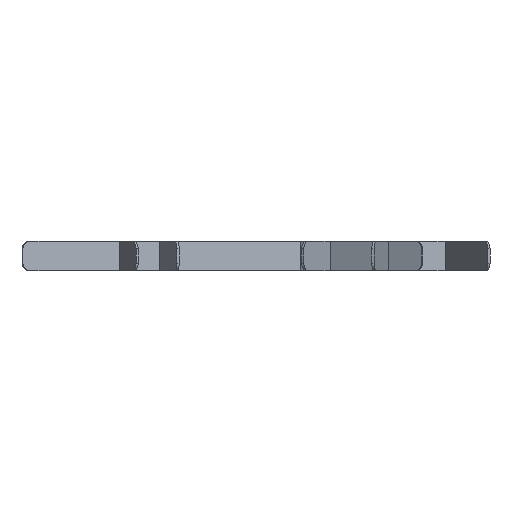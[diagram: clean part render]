
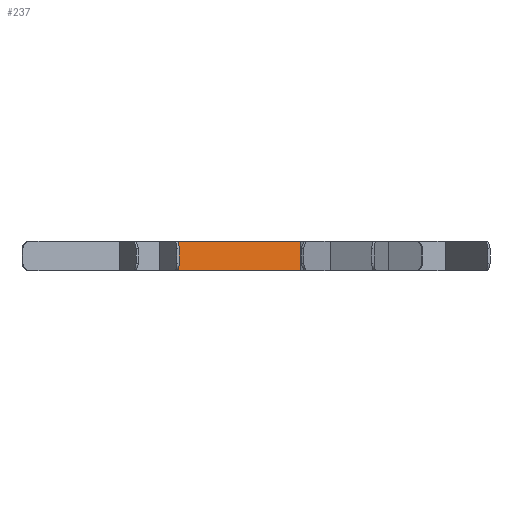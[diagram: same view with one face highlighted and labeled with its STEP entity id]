
A CAD part, left-side view. The second image highlights one B-rep face of the part: STEP entity #237.
In plain terms, the highlighted planar face has unit normal (-0.966, -0.259, 0).
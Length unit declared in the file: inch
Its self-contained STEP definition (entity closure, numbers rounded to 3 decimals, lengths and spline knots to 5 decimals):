
#237=ADVANCED_FACE('',(#463),#4164,.T.);
#463=FACE_OUTER_BOUND('',#689,.T.);
#689=EDGE_LOOP('',(#1624,#1625,#1626,#1627));
#1624=ORIENTED_EDGE('',*,*,#2696,.T.);
#1625=ORIENTED_EDGE('',*,*,#2674,.T.);
#1626=ORIENTED_EDGE('',*,*,#2678,.T.);
#1627=ORIENTED_EDGE('',*,*,#2675,.F.);
#2674=EDGE_CURVE('',#3946,#3939,#3468,.T.);
#2675=EDGE_CURVE('',#3952,#3937,#3469,.T.);
#2678=EDGE_CURVE('',#3939,#3937,#3472,.T.);
#2696=EDGE_CURVE('',#3952,#3946,#3486,.T.);
#3468=B_SPLINE_CURVE_WITH_KNOTS('',1,(#7155,#7156),.UNSPECIFIED.,.F.,.F.,
(2,2),(40.39536,72.23603),.UNSPECIFIED.);
#3469=B_SPLINE_CURVE_WITH_KNOTS('',1,(#7157,#7158),.UNSPECIFIED.,.F.,.F.,
(2,2),(40.39536,72.23603),.UNSPECIFIED.);
#3472=B_SPLINE_CURVE_WITH_KNOTS('',1,(#7163,#7164),.UNSPECIFIED.,.F.,.F.,
(2,2),(0.,6.),.UNSPECIFIED.);
#3486=B_SPLINE_CURVE_WITH_KNOTS('',1,(#7203,#7204),.UNSPECIFIED.,.F.,.F.,
(2,2),(-6.,0.),.UNSPECIFIED.);
#3937=VERTEX_POINT('',#5610);
#3939=VERTEX_POINT('',#5612);
#3946=VERTEX_POINT('',#5619);
#3952=VERTEX_POINT('',#5625);
#4164=PLANE('',#4448);
#4448=AXIS2_PLACEMENT_3D('',#5186,#4761,$);
#4761=DIRECTION('',(-0.966,-0.259,0.));
#5186=CARTESIAN_POINT('',(-807.23239,-233.98941,129.));
#5610=CARTESIAN_POINT('',(-824.41432,-169.86556,123.));
#5612=CARTESIAN_POINT('',(-824.41432,-169.86556,129.));
#5619=CARTESIAN_POINT('',(-816.74646,-198.48242,129.));
#5625=CARTESIAN_POINT('',(-816.74646,-198.48242,123.));
#7155=CARTESIAN_POINT('',(-816.74646,-198.48242,129.));
#7156=CARTESIAN_POINT('',(-824.41432,-169.86556,129.));
#7157=CARTESIAN_POINT('',(-816.74646,-198.48242,123.));
#7158=CARTESIAN_POINT('',(-824.41432,-169.86556,123.));
#7163=CARTESIAN_POINT('',(-824.41432,-169.86556,129.));
#7164=CARTESIAN_POINT('',(-824.41432,-169.86556,123.));
#7203=CARTESIAN_POINT('',(-816.74646,-198.48242,123.));
#7204=CARTESIAN_POINT('',(-816.74646,-198.48242,129.));
